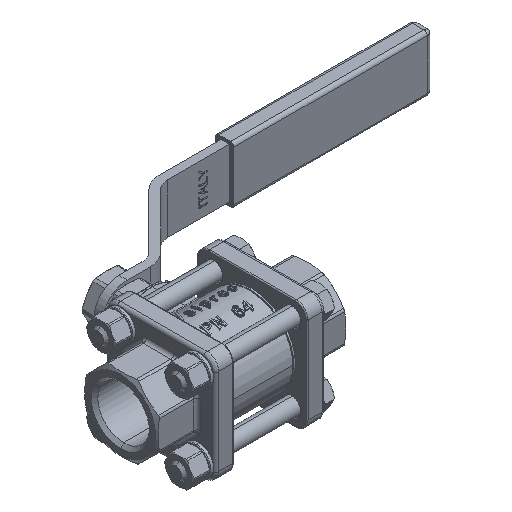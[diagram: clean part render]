
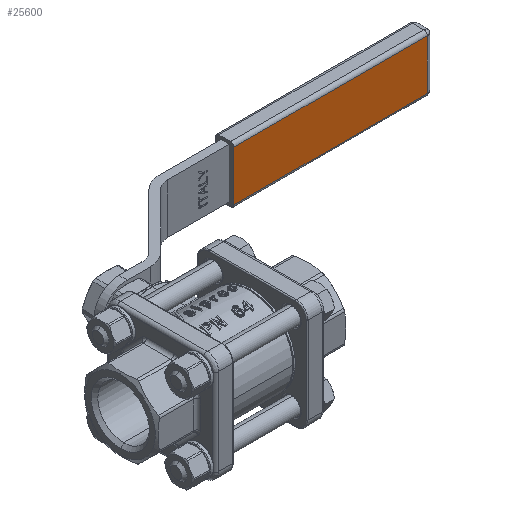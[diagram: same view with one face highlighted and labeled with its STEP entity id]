
A CAD part, isometric view. The second image highlights one B-rep face of the part: STEP entity #25600.
In plain terms, the highlighted planar face has unit normal (0, -1, 0).
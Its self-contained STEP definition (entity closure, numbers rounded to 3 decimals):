
#25568 = ORIENTED_EDGE ( 'NONE', *, *, #26084, .T. ) ;
#25571 = ORIENTED_EDGE ( 'NONE', *, *, #26033, .T. ) ;
#25573 = VERTEX_POINT ( 'NONE', #50108 ) ;
#25600 = ADVANCED_FACE ( 'NONE', ( #50626 ), #50652, .T. ) ;
#25605 = EDGE_LOOP ( 'NONE', ( #25668, #25720, #25568, #25571 ) ) ;
#25668 = ORIENTED_EDGE ( 'NONE', *, *, #28075, .T. ) ;
#25679 = EDGE_CURVE ( 'NONE', #25867, #26000, #50823, .T. ) ;
#25720 = ORIENTED_EDGE ( 'NONE', *, *, #25679, .F. ) ;
#25755 = VERTEX_POINT ( 'NONE', #51239 ) ;
#25867 = VERTEX_POINT ( 'NONE', #51484 ) ;
#26000 = VERTEX_POINT ( 'NONE', #51815 ) ;
#26033 = EDGE_CURVE ( 'NONE', #25573, #25755, #51855, .T. ) ;
#26084 = EDGE_CURVE ( 'NONE', #25867, #25573, #51917, .T. ) ;
#28075 = EDGE_CURVE ( 'NONE', #25755, #26000, #54185, .T. ) ;
#50108 = CARTESIAN_POINT ( 'NONE',  ( 108.5, 44.95, -7.5 ) ) ;
#50626 = FACE_OUTER_BOUND ( 'NONE', #25605, .T. ) ;
#50648 = DIRECTION ( 'NONE',  ( 0., 0., -1. ) ) ;
#50649 = DIRECTION ( 'NONE',  ( 0., -1., 0. ) ) ;
#50650 = AXIS2_PLACEMENT_3D ( 'NONE', #50651, #50649, #50648 ) ;
#50651 = CARTESIAN_POINT ( 'NONE',  ( 50.5, 44.95, 7.5 ) ) ;
#50652 = PLANE ( 'NONE',  #50650 ) ;
#50820 = DIRECTION ( 'NONE',  ( 0., 0., 1. ) ) ;
#50821 = VECTOR ( 'NONE', #50820, 1000. ) ;
#50822 = CARTESIAN_POINT ( 'NONE',  ( 50.5, 44.95, 0. ) ) ;
#50823 = LINE ( 'NONE', #50822, #50821 ) ;
#51239 = CARTESIAN_POINT ( 'NONE',  ( 108.5, 44.95, 7.5 ) ) ;
#51484 = CARTESIAN_POINT ( 'NONE',  ( 50.5, 44.95, -7.5 ) ) ;
#51815 = CARTESIAN_POINT ( 'NONE',  ( 50.5, 44.95, 7.5 ) ) ;
#51852 = DIRECTION ( 'NONE',  ( 0., 0., 1. ) ) ;
#51853 = VECTOR ( 'NONE', #51852, 1000. ) ;
#51854 = CARTESIAN_POINT ( 'NONE',  ( 108.5, 44.95, 0. ) ) ;
#51855 = LINE ( 'NONE', #51854, #51853 ) ;
#51914 = DIRECTION ( 'NONE',  ( 1., 0., 0. ) ) ;
#51915 = VECTOR ( 'NONE', #51914, 1000. ) ;
#51916 = CARTESIAN_POINT ( 'NONE',  ( 79.5, 44.95, -7.5 ) ) ;
#51917 = LINE ( 'NONE', #51916, #51915 ) ;
#54182 = DIRECTION ( 'NONE',  ( -1., 0., 0. ) ) ;
#54183 = VECTOR ( 'NONE', #54182, 1000. ) ;
#54184 = CARTESIAN_POINT ( 'NONE',  ( 79.5, 44.95, 7.5 ) ) ;
#54185 = LINE ( 'NONE', #54184, #54183 ) ;
